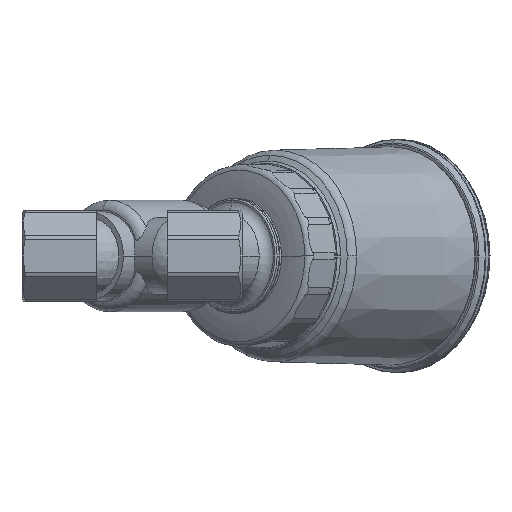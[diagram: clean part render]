
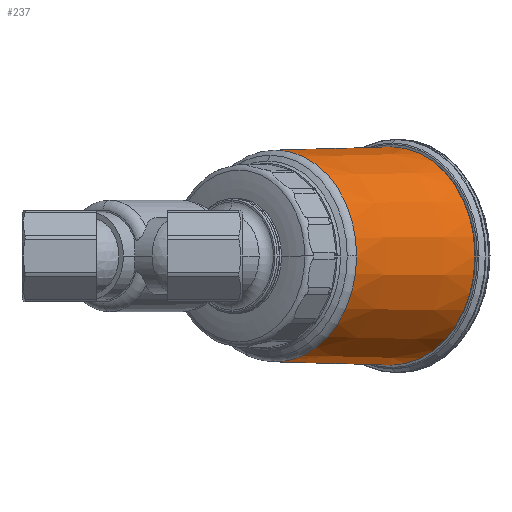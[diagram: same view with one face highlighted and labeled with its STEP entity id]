
A CAD part, front view. The second image highlights one B-rep face of the part: STEP entity #237.
In plain terms, the highlighted conical face has half-angle 1 degrees and reference radius 31.749 mm.
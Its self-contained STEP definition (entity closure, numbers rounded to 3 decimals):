
#237=ADVANCED_FACE('',(#650),#651,.T.);
#650=FACE_OUTER_BOUND('',#1146,.T.);
#651=CONICAL_SURFACE('',#1147,31.749,0.017);
#1146=EDGE_LOOP('',(#2685,#2686,#2687,#2688,#2689));
#1147=AXIS2_PLACEMENT_3D('',#2690,#2691,#2692);
#2685=ORIENTED_EDGE('',*,*,#3513,.T.);
#2686=ORIENTED_EDGE('',*,*,#3890,.F.);
#2687=ORIENTED_EDGE('',*,*,#3518,.T.);
#2688=ORIENTED_EDGE('',*,*,#3891,.T.);
#2689=ORIENTED_EDGE('',*,*,#3401,.T.);
#2690=CARTESIAN_POINT('',(92.03,85.842,0.0));
#2691=DIRECTION('',(0.643,0.766,0.0));
#2692=DIRECTION('',(0.,0.,-1.0));
#3401=EDGE_CURVE('',#4074,#4086,#4088,.T.);
#3513=EDGE_CURVE('',#4086,#4065,#4297,.T.);
#3518=EDGE_CURVE('',#4068,#4304,#4306,.T.);
#3890=EDGE_CURVE('',#4068,#4065,#4918,.T.);
#3891=EDGE_CURVE('',#4304,#4074,#4919,.T.);
#4065=VERTEX_POINT('',#5184);
#4068=VERTEX_POINT('',#5188);
#4074=VERTEX_POINT('',#5195);
#4086=VERTEX_POINT('',#5232);
#4088=CIRCLE('',#5234,31.284);
#4297=LINE('',#5771,#5772);
#4304=VERTEX_POINT('',#5802);
#4306=LINE('',#5804,#5805);
#4918=CIRCLE('',#7140,32.214);
#4919=CIRCLE('',#7141,31.284);
#5184=CARTESIAN_POINT('',(109.155,106.25,-32.214));
#5188=CARTESIAN_POINT('',(109.155,106.25,32.214));
#5195=CARTESIAN_POINT('',(98.87,45.325,0.));
#5232=CARTESIAN_POINT('',(74.905,65.434,-31.284));
#5234=AXIS2_PLACEMENT_3D('',#8216,#8217,#8218);
#5771=CARTESIAN_POINT('',(92.03,85.842,-31.749));
#5772=VECTOR('',#8470,1.0);
#5802=CARTESIAN_POINT('',(74.905,65.434,31.284));
#5804=CARTESIAN_POINT('',(92.03,85.842,31.749));
#5805=VECTOR('',#8474,1.0);
#7140=AXIS2_PLACEMENT_3D('',#9095,#9096,#9097);
#7141=AXIS2_PLACEMENT_3D('',#9098,#9099,#9100);
#8216=CARTESIAN_POINT('',(74.905,65.434,0.0));
#8217=DIRECTION('',(0.643,0.766,0.));
#8218=DIRECTION('',(0.,0.,-1.0));
#8470=DIRECTION('',(0.643,0.766,-0.017));
#8474=DIRECTION('',(-0.643,-0.766,-0.017));
#9095=CARTESIAN_POINT('',(109.155,106.25,0.0));
#9096=DIRECTION('',(0.643,0.766,0.0));
#9097=DIRECTION('',(0.,0.,-1.0));
#9098=CARTESIAN_POINT('',(74.905,65.434,0.0));
#9099=DIRECTION('',(0.643,0.766,0.));
#9100=DIRECTION('',(0.,0.,-1.0));
